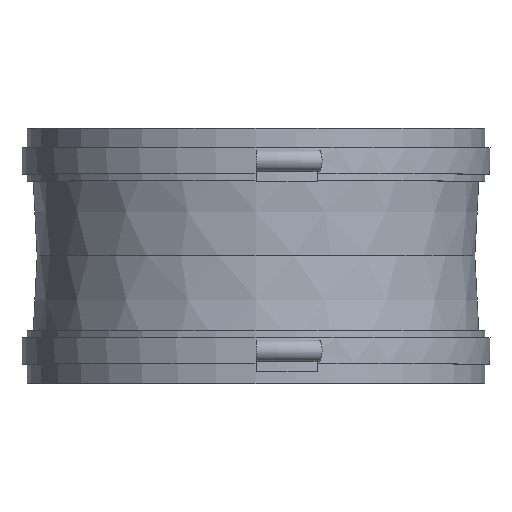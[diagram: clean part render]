
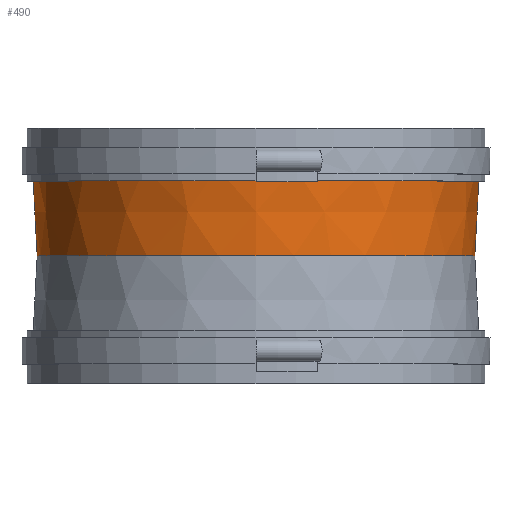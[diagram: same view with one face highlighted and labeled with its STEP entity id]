
A CAD part, top view. The second image highlights one B-rep face of the part: STEP entity #490.
In plain terms, the highlighted conical face has half-angle 3 degrees and reference radius 125.69 mm.
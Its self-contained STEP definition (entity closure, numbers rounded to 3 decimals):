
#17=CONICAL_SURFACE('',#570,125.69,3.);
#39=FACE_BOUND('',#151,.T.);
#93=FACE_OUTER_BOUND('',#150,.T.);
#150=EDGE_LOOP('',(#417));
#151=EDGE_LOOP('',(#418));
#218=CIRCLE('',#556,127.);
#223=CIRCLE('',#569,124.38);
#258=VERTEX_POINT('',#841);
#263=VERTEX_POINT('',#859);
#310=EDGE_CURVE('',#258,#258,#218,.T.);
#315=EDGE_CURVE('',#263,#263,#223,.T.);
#417=ORIENTED_EDGE('',*,*,#315,.T.);
#418=ORIENTED_EDGE('',*,*,#310,.F.);
#490=ADVANCED_FACE('',(#93,#39),#17,.T.);
#556=AXIS2_PLACEMENT_3D('',#842,#701,#702);
#569=AXIS2_PLACEMENT_3D('',#860,#727,#728);
#570=AXIS2_PLACEMENT_3D('',#861,#729,#730);
#701=DIRECTION('center_axis',(0.,1.,0.));
#702=DIRECTION('ref_axis',(1.,0.,0.));
#727=DIRECTION('center_axis',(0.,1.,0.));
#728=DIRECTION('ref_axis',(1.,0.,0.));
#729=DIRECTION('center_axis',(0.,1.,0.));
#730=DIRECTION('ref_axis',(0.,0.,1.));
#841=CARTESIAN_POINT('',(0.,50.,127.));
#842=CARTESIAN_POINT('Origin',(0.,50.,0.));
#859=CARTESIAN_POINT('',(0.,0.,124.38));
#860=CARTESIAN_POINT('Origin',(0.,0.,0.));
#861=CARTESIAN_POINT('Origin',(0.,25.,0.));
